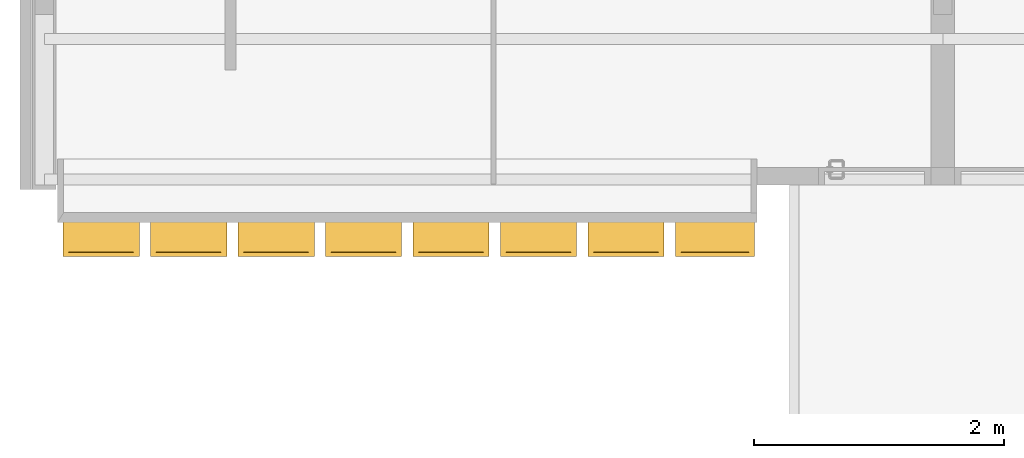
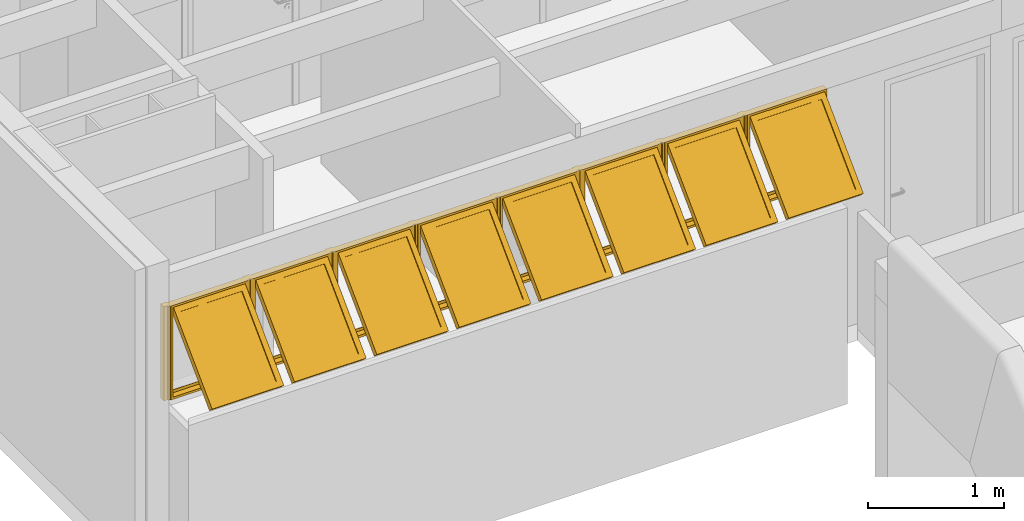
# One storey, part 19 of 22: 1 window.
"""IFC2X3 building model written with IfcOpenShell, lengths in millimetres."""

from ifc_helpers import new_model, si_unit, direction, frame, frame_2d, origin_with_axes, origin_2d_with_axis, place, context, subcontext, project, spatial, polyline, rectangle, outline, extrude, source, transform, mapped, type_object, type_shapes, element, save


model = new_model("IFC2X3")

# Units and contexts
model_context = context("Model", 3, precision=1e-05, world=origin_with_axes(), true_north=direction((0.0, 1.0)))
body_context = subcontext(model_context, "Body", "Model", "MODEL_VIEW")
ifc_project = project(units=[si_unit("LENGTHUNIT", "METRE", prefix="MILLI"), si_unit("AREAUNIT", "SQUARE_METRE"), si_unit("VOLUMEUNIT", "CUBIC_METRE"), si_unit("PLANEANGLEUNIT", "RADIAN"), si_unit("TIMEUNIT", "SECOND"), si_unit("MASSUNIT", "GRAM")], contexts=[model_context])

# Site, building, storey
site_placement = place(None, origin_with_axes())
site = spatial("IfcSite", under=ifc_project, at=site_placement, Name="Site", CompositionType="ELEMENT")
building_placement = place(site_placement, origin_with_axes())
building = spatial("IfcBuilding", under=site, at=building_placement, Name="Construção", CompositionType="COMPLEX")
storey_placement = place(building_placement, frame((0.0, 0.0, 2650.0), z_axis=(0.0, 0.0, 1.0), x_axis=(1.0, 0.0, 0.0)))
storey = spatial("IfcBuildingStorey", under=building, at=storey_placement, Name="Segundo Pavimento", CompositionType="COMPLEX", Elevation=2650.0)

# Window
window_style = type_object("IfcWindowStyle", ConstructionType="NOTDEFINED", OperationType="NOTDEFINED", ParameterTakesPrecedence=False, Sizeable=False)
shared_shape_1 = source(origin_with_axes(), body_context, "Body", "SweptSolid", [
    extrude(outline(polyline([(-324.99999695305, -22.5), (-279.99999695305, 22.5), (279.99999695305, 22.5), (324.99999695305, -22.5), (-324.99999695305, -22.5)])), frame((350.00000059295, 22.5, -40.0), z_axis=(0.0, 0.0, 1.0), x_axis=(1.0, 0.0, 0.0)), (0.0, 0.0, 1.0), 5.0),
    extrude(outline(polyline([(22.5, -422.499945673), (-22.5, -377.499945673), (-22.5, 377.499945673), (22.5, 422.499945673), (22.5, -422.499945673)])), frame((652.499997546, 422.499945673, -40.0), z_axis=(0.0, 0.0, 1.0), x_axis=(1.0, 0.0, 0.0)), (0.0, 0.0, 1.0), 5.0),
    extrude(outline(polyline([(-324.9999969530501, 22.5), (324.99999695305, 22.5), (279.99999695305, -22.5), (-279.9999969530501, -22.5), (-324.9999969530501, 22.5)])), frame((350.0000005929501, 822.499891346, -40.0), z_axis=(0.0, 0.0, 1.0), x_axis=(1.0, 0.0, 0.0)), (0.0, 0.0, 1.0), 5.0),
    extrude(outline(polyline([(-22.5, -422.499945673), (-22.5, 422.499945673), (22.5, 377.499945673), (22.5, -377.499945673), (-22.5, -422.499945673)])), frame((47.5000036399, 422.499945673, -40.0), z_axis=(0.0, 0.0, 1.0), x_axis=(1.0, 0.0, 0.0)), (0.0, 0.0, 1.0), 5.0),
    extrude(outline(polyline([(-324.99999695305, -10.0), (-304.99999695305, 10.0), (304.99999695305, 10.0), (324.99999695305, -10.0), (-324.99999695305, -10.0)])), frame((350.00000059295, 10.0, -35.0), z_axis=(0.0, 0.0, 1.0), x_axis=(1.0, 0.0, 0.0)), (0.0, 0.0, 1.0), 50.0),
    extrude(outline(polyline([(10.0, -422.499945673), (-10.0, -402.499945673), (-10.0, 402.499945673), (10.0, 422.499945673), (10.0, -422.499945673)])), frame((664.999997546, 422.499945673, -35.0), z_axis=(0.0, 0.0, 1.0), x_axis=(1.0, 0.0, 0.0)), (0.0, 0.0, 1.0), 50.0),
    extrude(outline(polyline([(-324.9999969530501, 10.0), (324.99999695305, 10.0), (304.99999695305, -10.0), (-304.9999969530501, -10.0), (-324.9999969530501, 10.0)])), frame((350.0000005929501, 834.999891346, -35.0), z_axis=(0.0, 0.0, 1.0), x_axis=(1.0, 0.0, 0.0)), (0.0, 0.0, 1.0), 50.0),
    extrude(outline(polyline([(-10.0, -422.499945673), (-10.0, 422.499945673), (10.0, 402.499945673), (10.0, -402.499945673), (-10.0, -422.499945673)])), frame((35.0000036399, 422.499945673, -35.0), z_axis=(0.0, 0.0, 1.0), x_axis=(1.0, 0.0, 0.0)), (0.0, 0.0, 1.0), 50.0),
    extrude(rectangle(XDim=844.999891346, YDim=19.99999787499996, at=frame_2d((0.0, 0.0), x_axis=(0.0, 1.0))), frame((684.9999964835, 422.499945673, -10.0), z_axis=(0.0, 0.0, 1.0), x_axis=(1.0, 0.0, 0.0)), (0.0, 0.0, 1.0), 20.0),
    extrude(rectangle(XDim=844.999891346, YDim=19.99999787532, at=frame_2d((0.0, 0.0), x_axis=(0.0, 1.0))), frame((15.00000470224, 422.499945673, -10.0), z_axis=(0.0, 0.0, 1.0), x_axis=(1.0, 0.0, 0.0)), (0.0, 0.0, 1.0), 20.0),
    extrude(outline(polyline([(22.5, -357.4999456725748), (-22.5, -402.4999456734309), (-22.50000000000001, 402.4999456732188), (22.5, 357.499945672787), (22.5, -357.4999456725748)])), frame((67.5000036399, 505.034111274, 264.2551019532), z_axis=(4.714640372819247e-12, 0.7071067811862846, 0.7071067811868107), x_axis=(1.0, 0.0, 0.0)), (0.0, 0.0, 1.0), 55.00000000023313),
    extrude(outline(polyline([(22.5, -402.4999456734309), (-22.5, -357.4999456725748), (-22.50000000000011, 357.499945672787), (22.5, 402.4999456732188), (22.5, -402.4999456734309)])), frame((632.499997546, 505.034111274, 264.2551019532), z_axis=(4.714640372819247e-12, 0.7071067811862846, 0.7071067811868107), x_axis=(1.0, 0.0, 0.0)), (0.0, 0.0, 1.0), 55.00000000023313),
    extrude(outline(polyline([(304.99999695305, -22.50000000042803), (-304.9999969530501, -22.50000000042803), (-259.9999969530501, 22.50000000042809), (259.99999695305, 22.50000000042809), (304.99999695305, -22.50000000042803)])), frame((350.00000059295, 236.333572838, 532.955640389), z_axis=(4.714640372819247e-12, 0.7071067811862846, 0.7071067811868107), x_axis=(1.0, 0.0, 0.0)), (0.0, 0.0, 1.0), 55.00000000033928),
    extrude(outline(polyline([(-304.9999969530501, 22.500000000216), (304.99999695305, 22.500000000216), (259.99999695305, -22.500000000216), (-259.9999969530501, -22.500000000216), (-304.9999969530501, 22.500000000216)])), frame((350.0000005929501, 773.73464971, -4.4454364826), z_axis=(4.714640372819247e-12, 0.7071067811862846, 0.7071067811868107), x_axis=(1.0, 0.0, 0.0)), (0.0, 0.0, 1.0), 55.00000000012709),
])
shared_shape_2 = source(origin_with_axes(), body_context, "Body", "SweptSolid", [
    extrude(rectangle(XDim=519.9999939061, YDim=16.00000000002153, at=origin_2d_with_axis()), frame((350.00000059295, 783.9876980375, 37.627416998), z_axis=(0.0, -0.7071067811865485, 0.7071067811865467), x_axis=(1.0, 0.0, 0.0)), (0.0, 0.0, 1.0), 714.9998913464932),
])
shared_shape_3 = source(origin_with_axes(), body_context, "Body", "MappedRepresentation", [
    mapped(shared_shape_1, transform((2400.0, 17910.0, 4005.00007107), x_axis=(1.0, 0.0, 0.0), y_axis=(0.0, 0.0, 1.0), z_axis=(0.0, -1.0, 0.0), scale=1.0)),
    mapped(shared_shape_2, transform((2400.0, 17910.0, 4005.00007107), x_axis=(1.0, 0.0, 0.0), y_axis=(0.0, 0.0, 1.0), z_axis=(0.0, -1.0, 0.0), scale=1.0)),
])
shared_shape_4 = source(origin_with_axes(), body_context, "Body", "MappedRepresentation", [
    mapped(shared_shape_1, transform((4500.0, 17910.0, 4005.00007107), x_axis=(1.0, 0.0, 0.0), y_axis=(0.0, 0.0, 1.0), z_axis=(0.0, -1.0, 0.0), scale=1.0)),
    mapped(shared_shape_2, transform((4500.0, 17910.0, 4005.00007107), x_axis=(1.0, 0.0, 0.0), y_axis=(0.0, 0.0, 1.0), z_axis=(0.0, -1.0, 0.0), scale=1.0)),
])
shared_shape_5 = source(origin_with_axes(), body_context, "Body", "SweptSolid", [
    extrude(outline(polyline([(-324.99999695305, -22.5), (-279.99999695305, 22.5), (279.99999695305, 22.5), (324.99999695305, -22.5), (-324.99999695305, -22.5)])), frame((350.00000059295, 22.5, -40.0), z_axis=(0.0, 0.0, 1.0), x_axis=(1.0, 0.0, 0.0)), (0.0, 0.0, 1.0), 5.0),
    extrude(outline(polyline([(22.5, -422.499945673), (-22.5, -377.499945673), (-22.5, 377.499945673), (22.5, 422.499945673), (22.5, -422.499945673)])), frame((652.499997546, 422.499945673, -40.0), z_axis=(0.0, 0.0, 1.0), x_axis=(1.0, 0.0, 0.0)), (0.0, 0.0, 1.0), 5.0),
    extrude(outline(polyline([(-324.9999969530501, 22.5), (324.99999695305, 22.5), (279.99999695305, -22.5), (-279.9999969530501, -22.5), (-324.9999969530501, 22.5)])), frame((350.0000005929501, 822.499891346, -40.0), z_axis=(0.0, 0.0, 1.0), x_axis=(1.0, 0.0, 0.0)), (0.0, 0.0, 1.0), 5.0),
    extrude(outline(polyline([(-22.5, -422.499945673), (-22.5, 422.499945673), (22.5, 377.499945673), (22.5, -377.499945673), (-22.5, -422.499945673)])), frame((47.5000036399, 422.499945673, -40.0), z_axis=(0.0, 0.0, 1.0), x_axis=(1.0, 0.0, 0.0)), (0.0, 0.0, 1.0), 5.0),
    extrude(outline(polyline([(-324.99999695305, -10.0), (-304.99999695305, 10.0), (304.99999695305, 10.0), (324.99999695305, -10.0), (-324.99999695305, -10.0)])), frame((350.00000059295, 10.0, -35.0), z_axis=(0.0, 0.0, 1.0), x_axis=(1.0, 0.0, 0.0)), (0.0, 0.0, 1.0), 50.0),
    extrude(outline(polyline([(10.0, -422.499945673), (-10.0, -402.499945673), (-10.0, 402.499945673), (10.0, 422.499945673), (10.0, -422.499945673)])), frame((664.999997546, 422.499945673, -35.0), z_axis=(0.0, 0.0, 1.0), x_axis=(1.0, 0.0, 0.0)), (0.0, 0.0, 1.0), 50.0),
    extrude(outline(polyline([(-324.9999969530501, 10.0), (324.99999695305, 10.0), (304.99999695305, -10.0), (-304.9999969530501, -10.0), (-324.9999969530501, 10.0)])), frame((350.0000005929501, 834.999891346, -35.0), z_axis=(0.0, 0.0, 1.0), x_axis=(1.0, 0.0, 0.0)), (0.0, 0.0, 1.0), 50.0),
    extrude(outline(polyline([(-10.0, -422.499945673), (-10.0, 422.499945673), (10.0, 402.499945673), (10.0, -402.499945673), (-10.0, -422.499945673)])), frame((35.0000036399, 422.499945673, -35.0), z_axis=(0.0, 0.0, 1.0), x_axis=(1.0, 0.0, 0.0)), (0.0, 0.0, 1.0), 50.0),
    extrude(rectangle(XDim=844.999891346, YDim=19.99999787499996, at=frame_2d((0.0, 0.0), x_axis=(0.0, 1.0))), frame((684.9999964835, 422.499945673, -10.0), z_axis=(0.0, 0.0, 1.0), x_axis=(1.0, 0.0, 0.0)), (0.0, 0.0, 1.0), 20.0),
    extrude(rectangle(XDim=844.999891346, YDim=19.99999787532, at=frame_2d((0.0, 0.0), x_axis=(0.0, 1.0))), frame((15.00000470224, 422.499945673, -10.0), z_axis=(0.0, 0.0, 1.0), x_axis=(1.0, 0.0, 0.0)), (0.0, 0.0, 1.0), 20.0),
    extrude(outline(polyline([(22.5, -357.4999456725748), (-22.5, -402.4999456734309), (-22.50000000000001, 402.4999456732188), (22.5, 357.499945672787), (22.5, -357.4999456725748)])), frame((67.5000036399, 505.034111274, 264.2551019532), z_axis=(4.714640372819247e-12, 0.7071067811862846, 0.7071067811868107), x_axis=(1.0, 0.0, 0.0)), (0.0, 0.0, 1.0), 55.00000000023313),
    extrude(outline(polyline([(22.5, -402.4999456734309), (-22.5, -357.4999456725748), (-22.50000000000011, 357.499945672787), (22.5, 402.4999456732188), (22.5, -402.4999456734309)])), frame((632.499997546, 505.034111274, 264.2551019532), z_axis=(4.714640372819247e-12, 0.7071067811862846, 0.7071067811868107), x_axis=(1.0, 0.0, 0.0)), (0.0, 0.0, 1.0), 55.00000000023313),
    extrude(outline(polyline([(304.99999695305, -22.50000000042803), (-304.9999969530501, -22.50000000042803), (-259.9999969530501, 22.50000000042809), (259.99999695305, 22.50000000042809), (304.99999695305, -22.50000000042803)])), frame((350.00000059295, 236.333572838, 532.955640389), z_axis=(4.714640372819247e-12, 0.7071067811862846, 0.7071067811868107), x_axis=(1.0, 0.0, 0.0)), (0.0, 0.0, 1.0), 55.00000000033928),
    extrude(outline(polyline([(-304.9999969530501, 22.500000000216), (304.99999695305, 22.500000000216), (259.99999695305, -22.500000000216), (-259.9999969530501, -22.500000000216), (-304.9999969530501, 22.500000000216)])), frame((350.0000005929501, 773.73464971, -4.4454364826), z_axis=(4.714640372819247e-12, 0.7071067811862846, 0.7071067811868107), x_axis=(1.0, 0.0, 0.0)), (0.0, 0.0, 1.0), 55.00000000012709),
])
shared_shape_6 = source(origin_with_axes(), body_context, "Body", "SweptSolid", [
    extrude(rectangle(XDim=519.9999939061, YDim=16.00000000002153, at=origin_2d_with_axis()), frame((350.00000059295, 783.9876980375, 37.627416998), z_axis=(0.0, -0.7071067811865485, 0.7071067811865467), x_axis=(1.0, 0.0, 0.0)), (0.0, 0.0, 1.0), 714.9998913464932),
])
shared_shape_7 = source(origin_with_axes(), body_context, "Body", "MappedRepresentation", [
    mapped(shared_shape_5, transform((300.0, 17910.0, 4005.00007107), x_axis=(1.0, 0.0, 0.0), y_axis=(0.0, 0.0, 1.0), z_axis=(0.0, -1.0, 0.0), scale=1.0)),
    mapped(shared_shape_6, transform((300.0, 17910.0, 4005.00007107), x_axis=(1.0, 0.0, 0.0), y_axis=(0.0, 0.0, 1.0), z_axis=(0.0, -1.0, 0.0), scale=1.0)),
])
shared_shape_8 = source(origin_with_axes(), body_context, "Body", "MappedRepresentation", [
    mapped(shared_shape_5, transform((1000.0, 17910.0, 4005.00007107), x_axis=(1.0, 0.0, 0.0), y_axis=(0.0, 0.0, 1.0), z_axis=(0.0, -1.0, 0.0), scale=1.0)),
    mapped(shared_shape_6, transform((1000.0, 17910.0, 4005.00007107), x_axis=(1.0, 0.0, 0.0), y_axis=(0.0, 0.0, 1.0), z_axis=(0.0, -1.0, 0.0), scale=1.0)),
])
shared_shape_9 = source(origin_with_axes(), body_context, "Body", "SweptSolid", [
    extrude(outline(polyline([(-324.99999695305, -22.5), (-279.99999695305, 22.5), (279.99999695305, 22.5), (324.99999695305, -22.5), (-324.99999695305, -22.5)])), frame((350.00000059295, 22.5, -40.0), z_axis=(0.0, 0.0, 1.0), x_axis=(1.0, 0.0, 0.0)), (0.0, 0.0, 1.0), 5.0),
    extrude(outline(polyline([(22.5, -422.499945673), (-22.5, -377.499945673), (-22.5, 377.499945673), (22.5, 422.499945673), (22.5, -422.499945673)])), frame((652.499997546, 422.499945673, -40.0), z_axis=(0.0, 0.0, 1.0), x_axis=(1.0, 0.0, 0.0)), (0.0, 0.0, 1.0), 5.0),
    extrude(outline(polyline([(-324.9999969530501, 22.5), (324.99999695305, 22.5), (279.99999695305, -22.5), (-279.9999969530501, -22.5), (-324.9999969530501, 22.5)])), frame((350.0000005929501, 822.499891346, -40.0), z_axis=(0.0, 0.0, 1.0), x_axis=(1.0, 0.0, 0.0)), (0.0, 0.0, 1.0), 5.0),
    extrude(outline(polyline([(-22.5, -422.499945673), (-22.5, 422.499945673), (22.5, 377.499945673), (22.5, -377.499945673), (-22.5, -422.499945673)])), frame((47.5000036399, 422.499945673, -40.0), z_axis=(0.0, 0.0, 1.0), x_axis=(1.0, 0.0, 0.0)), (0.0, 0.0, 1.0), 5.0),
    extrude(outline(polyline([(-324.99999695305, -10.0), (-304.99999695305, 10.0), (304.99999695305, 10.0), (324.99999695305, -10.0), (-324.99999695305, -10.0)])), frame((350.00000059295, 10.0, -35.0), z_axis=(0.0, 0.0, 1.0), x_axis=(1.0, 0.0, 0.0)), (0.0, 0.0, 1.0), 50.0),
    extrude(outline(polyline([(10.0, -422.499945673), (-10.0, -402.499945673), (-10.0, 402.499945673), (10.0, 422.499945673), (10.0, -422.499945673)])), frame((664.999997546, 422.499945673, -35.0), z_axis=(0.0, 0.0, 1.0), x_axis=(1.0, 0.0, 0.0)), (0.0, 0.0, 1.0), 50.0),
    extrude(outline(polyline([(-324.9999969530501, 10.0), (324.99999695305, 10.0), (304.99999695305, -10.0), (-304.9999969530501, -10.0), (-324.9999969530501, 10.0)])), frame((350.0000005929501, 834.999891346, -35.0), z_axis=(0.0, 0.0, 1.0), x_axis=(1.0, 0.0, 0.0)), (0.0, 0.0, 1.0), 50.0),
    extrude(outline(polyline([(-10.0, -422.499945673), (-10.0, 422.499945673), (10.0, 402.499945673), (10.0, -402.499945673), (-10.0, -422.499945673)])), frame((35.0000036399, 422.499945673, -35.0), z_axis=(0.0, 0.0, 1.0), x_axis=(1.0, 0.0, 0.0)), (0.0, 0.0, 1.0), 50.0),
    extrude(rectangle(XDim=844.999891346, YDim=19.99999787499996, at=frame_2d((0.0, 0.0), x_axis=(0.0, 1.0))), frame((684.9999964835, 422.499945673, -10.0), z_axis=(0.0, 0.0, 1.0), x_axis=(1.0, 0.0, 0.0)), (0.0, 0.0, 1.0), 20.0),
    extrude(rectangle(XDim=844.999891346, YDim=19.99999787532, at=frame_2d((0.0, 0.0), x_axis=(0.0, 1.0))), frame((15.00000470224, 422.499945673, -10.0), z_axis=(0.0, 0.0, 1.0), x_axis=(1.0, 0.0, 0.0)), (0.0, 0.0, 1.0), 20.0),
    extrude(outline(polyline([(22.5, -357.4999456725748), (-22.5, -402.4999456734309), (-22.50000000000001, 402.4999456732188), (22.5, 357.499945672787), (22.5, -357.4999456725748)])), frame((67.5000036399, 505.034111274, 264.2551019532), z_axis=(4.714640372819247e-12, 0.7071067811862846, 0.7071067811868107), x_axis=(1.0, 0.0, 0.0)), (0.0, 0.0, 1.0), 55.00000000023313),
    extrude(outline(polyline([(22.5, -402.4999456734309), (-22.5, -357.4999456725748), (-22.50000000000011, 357.499945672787), (22.5, 402.4999456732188), (22.5, -402.4999456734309)])), frame((632.499997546, 505.034111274, 264.2551019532), z_axis=(4.714640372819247e-12, 0.7071067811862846, 0.7071067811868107), x_axis=(1.0, 0.0, 0.0)), (0.0, 0.0, 1.0), 55.00000000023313),
    extrude(outline(polyline([(304.99999695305, -22.50000000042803), (-304.9999969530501, -22.50000000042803), (-259.9999969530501, 22.50000000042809), (259.99999695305, 22.50000000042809), (304.99999695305, -22.50000000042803)])), frame((350.00000059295, 236.333572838, 532.955640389), z_axis=(4.714640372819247e-12, 0.7071067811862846, 0.7071067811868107), x_axis=(1.0, 0.0, 0.0)), (0.0, 0.0, 1.0), 55.00000000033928),
    extrude(outline(polyline([(-304.9999969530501, 22.500000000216), (304.99999695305, 22.500000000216), (259.99999695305, -22.500000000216), (-259.9999969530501, -22.500000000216), (-304.9999969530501, 22.500000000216)])), frame((350.0000005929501, 773.73464971, -4.4454364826), z_axis=(4.714640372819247e-12, 0.7071067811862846, 0.7071067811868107), x_axis=(1.0, 0.0, 0.0)), (0.0, 0.0, 1.0), 55.00000000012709),
])
shared_shape_10 = source(origin_with_axes(), body_context, "Body", "SweptSolid", [
    extrude(rectangle(XDim=519.9999939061, YDim=16.00000000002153, at=origin_2d_with_axis()), frame((350.00000059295, 783.9876980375, 37.627416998), z_axis=(0.0, -0.7071067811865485, 0.7071067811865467), x_axis=(1.0, 0.0, 0.0)), (0.0, 0.0, 1.0), 714.9998913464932),
])
shared_shape_11 = source(origin_with_axes(), body_context, "Body", "MappedRepresentation", [
    mapped(shared_shape_9, transform((3100.0, 17910.0, 4005.00007107), x_axis=(1.0, 0.0, 0.0), y_axis=(0.0, 0.0, 1.0), z_axis=(0.0, -1.0, 0.0), scale=1.0)),
    mapped(shared_shape_10, transform((3100.0, 17910.0, 4005.00007107), x_axis=(1.0, 0.0, 0.0), y_axis=(0.0, 0.0, 1.0), z_axis=(0.0, -1.0, 0.0), scale=1.0)),
])
shared_shape_12 = source(origin_with_axes(), body_context, "Body", "MappedRepresentation", [
    mapped(shared_shape_5, transform((3800.0, 17910.0, 4005.00007107), x_axis=(1.0, 0.0, 0.0), y_axis=(0.0, 0.0, 1.0), z_axis=(0.0, -1.0, 0.0), scale=1.0)),
    mapped(shared_shape_6, transform((3800.0, 17910.0, 4005.00007107), x_axis=(1.0, 0.0, 0.0), y_axis=(0.0, 0.0, 1.0), z_axis=(0.0, -1.0, 0.0), scale=1.0)),
])
shared_shape_13 = source(origin_with_axes(), body_context, "Body", "SweptSolid", [
    extrude(outline(polyline([(-337.49999657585, -22.5), (-292.49999657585, 22.5), (292.49999657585, 22.5), (337.49999657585, -22.5), (-337.49999657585, -22.5)])), frame((362.50000285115, 22.5, -40.0), z_axis=(0.0, 0.0, 1.0), x_axis=(1.0, 0.0, 0.0)), (0.0, 0.0, 1.0), 5.0),
    extrude(outline(polyline([(22.5, -422.4999902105), (-22.5, -377.4999902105), (-22.5, 377.4999902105), (22.5, 422.4999902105), (22.5, -422.4999902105)])), frame((677.499999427, 422.4999902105, -40.0), z_axis=(0.0, 0.0, 1.0), x_axis=(1.0, 0.0, 0.0)), (0.0, 0.0, 1.0), 5.0),
    extrude(outline(polyline([(-337.49999657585, 22.5), (337.49999657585, 22.5), (292.49999657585, -22.5), (-292.49999657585, -22.5), (-337.49999657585, 22.5)])), frame((362.50000285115, 822.499980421, -40.0), z_axis=(0.0, 0.0, 1.0), x_axis=(1.0, 0.0, 0.0)), (0.0, 0.0, 1.0), 5.0),
    extrude(outline(polyline([(-22.5, -422.4999902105), (-22.5, 422.4999902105), (22.5, 377.4999902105), (22.5, -377.4999902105), (-22.5, -422.4999902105)])), frame((47.5000062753, 422.4999902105, -40.0), z_axis=(0.0, 0.0, 1.0), x_axis=(1.0, 0.0, 0.0)), (0.0, 0.0, 1.0), 5.0),
    extrude(outline(polyline([(-337.49999657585, -10.0), (-317.49999657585, 10.0), (317.49999657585, 10.0), (337.49999657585, -10.0), (-337.49999657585, -10.0)])), frame((362.50000285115, 10.0, -35.0), z_axis=(0.0, 0.0, 1.0), x_axis=(1.0, 0.0, 0.0)), (0.0, 0.0, 1.0), 50.0),
    extrude(outline(polyline([(10.0, -422.4999902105), (-10.0, -402.4999902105), (-10.0, 402.4999902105), (10.0, 422.4999902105), (10.0, -422.4999902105)])), frame((689.999999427, 422.4999902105, -35.0), z_axis=(0.0, 0.0, 1.0), x_axis=(1.0, 0.0, 0.0)), (0.0, 0.0, 1.0), 50.0),
    extrude(outline(polyline([(-337.49999657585, 10.0), (337.49999657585, 10.0), (317.49999657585, -10.0), (-317.49999657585, -10.0), (-337.49999657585, 10.0)])), frame((362.50000285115, 834.999980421, -35.0), z_axis=(0.0, 0.0, 1.0), x_axis=(1.0, 0.0, 0.0)), (0.0, 0.0, 1.0), 50.0),
    extrude(outline(polyline([(-10.0, -422.4999902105), (-10.0, 422.4999902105), (10.0, 402.4999902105), (10.0, -402.4999902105), (-10.0, -422.4999902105)])), frame((35.0000062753, 422.4999902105, -35.0), z_axis=(0.0, 0.0, 1.0), x_axis=(1.0, 0.0, 0.0)), (0.0, 0.0, 1.0), 50.0),
    extrude(rectangle(XDim=844.999980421, YDim=19.99999998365, at=frame_2d((0.0, 0.0), x_axis=(0.0, 1.0))), frame((15.000006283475, 422.4999902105, -10.0), z_axis=(0.0, 0.0, 1.0), x_axis=(1.0, 0.0, 0.0)), (0.0, 0.0, 1.0), 20.0),
    extrude(outline(polyline([(22.50000000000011, -357.4999902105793), (-22.5, -402.4999902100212), (-22.5, 402.4999902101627), (22.50000000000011, 357.4999902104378), (22.50000000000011, -357.4999902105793)])), frame((67.5000062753, 505.034168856, 264.25513344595), z_axis=(4.714640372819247e-12, 0.7071067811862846, 0.7071067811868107), x_axis=(1.0, 0.0, 0.0)), (0.0, 0.0, 1.0), 54.99999999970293),
    extrude(outline(polyline([(22.50000000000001, -402.4999902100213), (-22.49999999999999, -357.4999902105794), (-22.49999999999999, 357.4999902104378), (22.50000000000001, 402.4999902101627), (22.50000000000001, -402.4999902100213)])), frame((657.499999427, 505.034168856, 264.25513344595), z_axis=(4.714640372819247e-12, 0.7071067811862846, 0.7071067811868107), x_axis=(1.0, 0.0, 0.0)), (0.0, 0.0, 1.0), 54.99999999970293),
    extrude(outline(polyline([(317.49999657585, -22.49999999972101), (-317.49999657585, -22.49999999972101), (-272.49999657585, 22.49999999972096), (272.49999657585, 22.49999999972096), (317.49999657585, -22.49999999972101)])), frame((362.50000285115, 236.3335989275, 532.9557033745), z_axis=(4.714640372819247e-12, 0.7071067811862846, 0.7071067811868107), x_axis=(1.0, 0.0, 0.0)), (0.0, 0.0, 1.0), 54.9999999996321),
    extrude(outline(polyline([(-317.49999657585, 22.49999999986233), (317.49999657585, 22.49999999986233), (272.49999657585, -22.49999999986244), (-272.49999657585, -22.49999999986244), (-317.49999657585, 22.49999999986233)])), frame((362.50000285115, 773.7347387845, -4.4454364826), z_axis=(4.714640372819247e-12, 0.7071067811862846, 0.7071067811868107), x_axis=(1.0, 0.0, 0.0)), (0.0, 0.0, 1.0), 54.99999999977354),
])
shared_shape_14 = source(origin_with_axes(), body_context, "Body", "SweptSolid", [
    extrude(rectangle(XDim=544.9999931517, YDim=16.00000000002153, at=origin_2d_with_axis()), frame((362.50000285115, 783.9877871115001, 37.627416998), z_axis=(0.0, -0.7071067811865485, 0.7071067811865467), x_axis=(1.0, 0.0, 0.0)), (0.0, 0.0, 1.0), 714.9999804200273),
])
shared_shape_15 = source(origin_with_axes(), body_context, "Body", "MappedRepresentation", [
    mapped(shared_shape_13, transform((5200.0, 17910.0, 4005.00007107), x_axis=(1.0, 0.0, 0.0), y_axis=(0.0, 0.0, 1.0), z_axis=(0.0, -1.0, 0.0), scale=1.0)),
    mapped(shared_shape_14, transform((5200.0, 17910.0, 4005.00007107), x_axis=(1.0, 0.0, 0.0), y_axis=(0.0, 0.0, 1.0), z_axis=(0.0, -1.0, 0.0), scale=1.0)),
])
shared_shape_16 = source(origin_with_axes(), body_context, "Body", "MappedRepresentation", [
    mapped(shared_shape_9, transform((1700.0, 17910.0, 4005.00007107), x_axis=(1.0, 0.0, 0.0), y_axis=(0.0, 0.0, 1.0), z_axis=(0.0, -1.0, 0.0), scale=1.0)),
    mapped(shared_shape_10, transform((1700.0, 17910.0, 4005.00007107), x_axis=(1.0, 0.0, 0.0), y_axis=(0.0, 0.0, 1.0), z_axis=(0.0, -1.0, 0.0), scale=1.0)),
])
shared_shape_17 = source(origin_with_axes(), body_context, "Body", "SweptSolid", [
    extrude(rectangle(XDim=844.999891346, YDim=50.0, at=frame_2d((0.0, 0.0), x_axis=(0.0, 1.0))), frame((2099.999999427, 422.4999456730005, -50.0), z_axis=(0.0, 0.0, 1.0), x_axis=(1.0, 0.0, 0.0)), (0.0, 0.0, 1.0), 50.0),
])
shared_shape_18 = source(origin_with_axes(), body_context, "Body", "SweptSolid", [
    extrude(rectangle(XDim=844.999891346, YDim=50.0, at=frame_2d((0.0, 0.0), x_axis=(0.0, 1.0))), frame((1399.999999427, 422.4999456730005, -50.0), z_axis=(0.0, 0.0, 1.0), x_axis=(1.0, 0.0, 0.0)), (0.0, 0.0, 1.0), 50.0),
])
shared_shape_19 = source(origin_with_axes(), body_context, "Body", "SweptSolid", [
    extrude(rectangle(XDim=844.999891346, YDim=50.0, at=frame_2d((0.0, 0.0), x_axis=(0.0, 1.0))), frame((699.9999994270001, 422.4999456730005, -50.0), z_axis=(0.0, 0.0, 1.0), x_axis=(1.0, 0.0, 0.0)), (0.0, 0.0, 1.0), 50.0),
])
shared_shape_20 = source(origin_with_axes(), body_context, "Body", "SweptSolid", [
    extrude(rectangle(XDim=844.999891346, YDim=50.0, at=frame_2d((0.0, 0.0), x_axis=(0.0, 1.0))), frame((3499.999999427, 422.4999456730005, -50.0), z_axis=(0.0, 0.0, 1.0), x_axis=(1.0, 0.0, 0.0)), (0.0, 0.0, 1.0), 50.0),
])
shared_shape_21 = source(origin_with_axes(), body_context, "Body", "SweptSolid", [
    extrude(rectangle(XDim=844.999891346, YDim=50.0, at=frame_2d((0.0, 0.0), x_axis=(0.0, 1.0))), frame((5599.999999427, 422.4999456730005, -50.0), z_axis=(0.0, 0.0, 1.0), x_axis=(1.0, 0.0, 0.0)), (0.0, 0.0, 1.0), 50.0),
])
shared_shape_22 = source(origin_with_axes(), body_context, "Body", "SweptSolid", [
    extrude(rectangle(XDim=844.999891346, YDim=50.0, at=frame_2d((0.0, 0.0), x_axis=(0.0, 1.0))), frame((2799.999999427, 422.4999456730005, -50.0), z_axis=(0.0, 0.0, 1.0), x_axis=(1.0, 0.0, 0.0)), (0.0, 0.0, 1.0), 50.0),
])
shared_shape_23 = source(origin_with_axes(), body_context, "Body", "SweptSolid", [
    extrude(rectangle(XDim=844.999891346, YDim=50.0, at=frame_2d((0.0, 0.0), x_axis=(0.0, 1.0))), frame((4199.999999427, 422.4999456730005, -50.0), z_axis=(0.0, 0.0, 1.0), x_axis=(1.0, 0.0, 0.0)), (0.0, 0.0, 1.0), 50.0),
])
shared_shape_24 = source(origin_with_axes(), body_context, "Body", "SweptSolid", [
    extrude(rectangle(XDim=844.999891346, YDim=50.0, at=frame_2d((0.0, 0.0), x_axis=(0.0, 1.0))), frame((4899.999999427, 422.4999456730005, -50.0), z_axis=(0.0, 0.0, 1.0), x_axis=(1.0, 0.0, 0.0)), (0.0, 0.0, 1.0), 50.0),
])
shared_shape_25 = source(origin_with_axes(), body_context, "Body", "MappedRepresentation", [
    mapped(shared_shape_3, transform((5899.999999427, -4005.00007107, -17960.0), x_axis=(-1.0, 0.0, 0.0), y_axis=(0.0, 0.0, 1.0), z_axis=(0.0, 1.0, 0.0), scale=1.0)),
    mapped(shared_shape_4, transform((5899.999999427, -4005.00007107, -17960.0), x_axis=(-1.0, 0.0, 0.0), y_axis=(0.0, 0.0, 1.0), z_axis=(0.0, 1.0, 0.0), scale=1.0)),
    mapped(shared_shape_7, transform((5899.999999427, -4005.00007107, -17960.0), x_axis=(-1.0, 0.0, 0.0), y_axis=(0.0, 0.0, 1.0), z_axis=(0.0, 1.0, 0.0), scale=1.0)),
    mapped(shared_shape_8, transform((5899.999999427, -4005.00007107, -17960.0), x_axis=(-1.0, 0.0, 0.0), y_axis=(0.0, 0.0, 1.0), z_axis=(0.0, 1.0, 0.0), scale=1.0)),
    mapped(shared_shape_11, transform((5899.999999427, -4005.00007107, -17960.0), x_axis=(-1.0, 0.0, 0.0), y_axis=(0.0, 0.0, 1.0), z_axis=(0.0, 1.0, 0.0), scale=1.0)),
    mapped(shared_shape_12, transform((5899.999999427, -4005.00007107, -17960.0), x_axis=(-1.0, 0.0, 0.0), y_axis=(0.0, 0.0, 1.0), z_axis=(0.0, 1.0, 0.0), scale=1.0)),
    mapped(shared_shape_15, transform((5899.999999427, -4005.00007107, -17960.0), x_axis=(-1.0, 0.0, 0.0), y_axis=(0.0, 0.0, 1.0), z_axis=(0.0, 1.0, 0.0), scale=1.0)),
    mapped(shared_shape_16, transform((5899.999999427, -4005.00007107, -17960.0), x_axis=(-1.0, 0.0, 0.0), y_axis=(0.0, 0.0, 1.0), z_axis=(0.0, 1.0, 0.0), scale=1.0)),
    mapped(shared_shape_17, transform((0.0, 0.0, 0.0))),
    mapped(shared_shape_18, transform((0.0, 0.0, 0.0))),
    mapped(shared_shape_19, transform((0.0, 0.0, 0.0))),
    mapped(shared_shape_20, transform((0.0, 0.0, 0.0))),
    mapped(shared_shape_21, transform((0.0, 0.0, 0.0))),
    mapped(shared_shape_22, transform((0.0, 0.0, 0.0))),
    mapped(shared_shape_23, transform((0.0, 0.0, 0.0))),
    mapped(shared_shape_24, transform((0.0, 0.0, 0.0))),
])
type_shapes(window_style, [shared_shape_25])
window_placement = place(storey_placement, frame((5899.999999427, 17960.0, 1355.00007107), z_axis=(0.0, 0.0, 1.0), x_axis=(-1.0, 0.0, 0.0)))
element("IfcWindow", 1, at=window_placement, inside=storey, type_object=window_style, Name="APTO7-JANELA-000", context=body_context, shape_type="MappedRepresentation", body=[
    mapped(shared_shape_25, transform((0.0, 0.0, 0.0), x_axis=(1.0, 0.0, 0.0), y_axis=(0.0, 0.0, 1.0), z_axis=(0.0, -1.0, 0.0), scale=1.0)),
])

save(model, "model.ifc")
